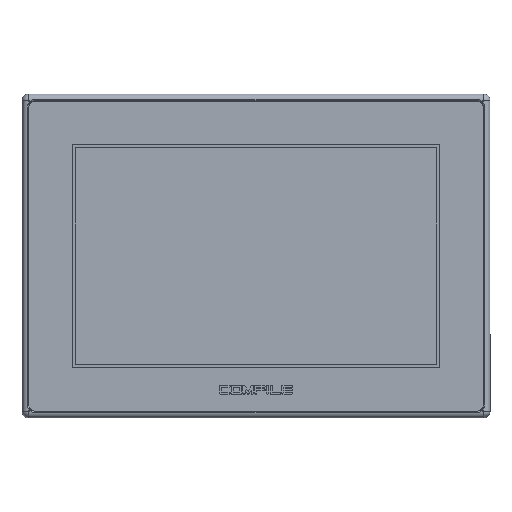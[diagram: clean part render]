
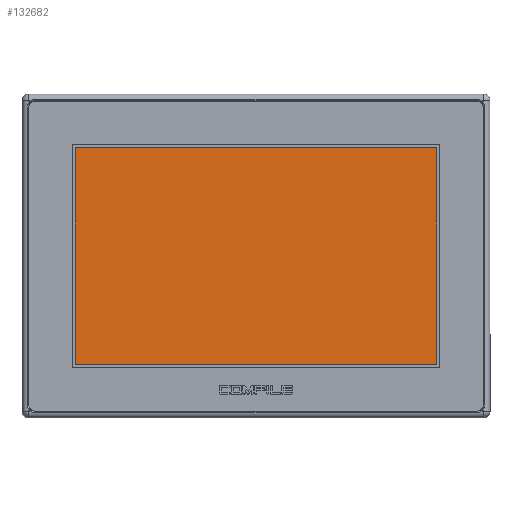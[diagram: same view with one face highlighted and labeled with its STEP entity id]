
A CAD part, top view. The second image highlights one B-rep face of the part: STEP entity #132682.
In plain terms, the highlighted planar face has unit normal (0, 0, 1).
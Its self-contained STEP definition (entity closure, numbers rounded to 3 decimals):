
#9798 = VERTEX_POINT ( 'NONE', #83104 ) ;
#21769 = VECTOR ( 'NONE', #157196, 1000. ) ;
#32588 = EDGE_CURVE ( 'NONE', #47182, #49541, #109529, .T. ) ;
#37645 = VECTOR ( 'NONE', #172908, 1000. ) ;
#47182 = VERTEX_POINT ( 'NONE', #145308 ) ;
#49541 = VERTEX_POINT ( 'NONE', #101301 ) ;
#53716 = DIRECTION ( 'NONE',  ( 1., 0., 0. ) ) ;
#56070 = DIRECTION ( 'NONE',  ( 0., 0., -1. ) ) ;
#58882 = EDGE_CURVE ( 'NONE', #9798, #47182, #130956, .T. ) ;
#73189 = VECTOR ( 'NONE', #53716, 1000. ) ;
#73979 = VERTEX_POINT ( 'NONE', #101308 ) ;
#76235 = EDGE_CURVE ( 'NONE', #73979, #9798, #78319, .T. ) ;
#76395 = CARTESIAN_POINT ( 'NONE',  ( -162.499, 100.148, 15.5 ) ) ;
#78319 = LINE ( 'NONE', #104024, #37645 ) ;
#78386 = ORIENTED_EDGE ( 'NONE', *, *, #76235, .F. ) ;
#83104 = CARTESIAN_POINT ( 'NONE',  ( -162.499, -33.852, 15.5 ) ) ;
#94358 = EDGE_LOOP ( 'NONE', ( #152482, #143783, #158560, #78386 ) ) ;
#94803 = AXIS2_PLACEMENT_3D ( 'NONE', #138052, #56070, #151720 ) ;
#99924 = VECTOR ( 'NONE', #140336, 1000. ) ;
#101272 = EDGE_CURVE ( 'NONE', #49541, #73979, #136384, .T. ) ;
#101301 = CARTESIAN_POINT ( 'NONE',  ( 60.501, 100.148, 15.5 ) ) ;
#101308 = CARTESIAN_POINT ( 'NONE',  ( 60.501, -33.852, 15.5 ) ) ;
#104024 = CARTESIAN_POINT ( 'NONE',  ( 60.501, -33.852, 15.5 ) ) ;
#109529 = LINE ( 'NONE', #163133, #73189 ) ;
#130956 = LINE ( 'NONE', #76395, #21769 ) ;
#132682 = ADVANCED_FACE ( 'NONE', ( #141740 ), #151139, .F. ) ;
#136384 = LINE ( 'NONE', #153430, #99924 ) ;
#138052 = CARTESIAN_POINT ( 'NONE',  ( -50.999, 33.148, 15.5 ) ) ;
#140336 = DIRECTION ( 'NONE',  ( 0., -1., 0. ) ) ;
#141740 = FACE_OUTER_BOUND ( 'NONE', #94358, .T. ) ;
#143783 = ORIENTED_EDGE ( 'NONE', *, *, #32588, .F. ) ;
#145308 = CARTESIAN_POINT ( 'NONE',  ( -162.499, 100.148, 15.5 ) ) ;
#151139 = PLANE ( 'NONE',  #94803 ) ;
#151720 = DIRECTION ( 'NONE',  ( -1., 0., 0. ) ) ;
#152482 = ORIENTED_EDGE ( 'NONE', *, *, #101272, .F. ) ;
#153430 = CARTESIAN_POINT ( 'NONE',  ( 60.501, 100.148, 15.5 ) ) ;
#157196 = DIRECTION ( 'NONE',  ( 0., 1., 0. ) ) ;
#158560 = ORIENTED_EDGE ( 'NONE', *, *, #58882, .F. ) ;
#163133 = CARTESIAN_POINT ( 'NONE',  ( 60.501, 100.148, 15.5 ) ) ;
#172908 = DIRECTION ( 'NONE',  ( -1., 0., 0. ) ) ;
